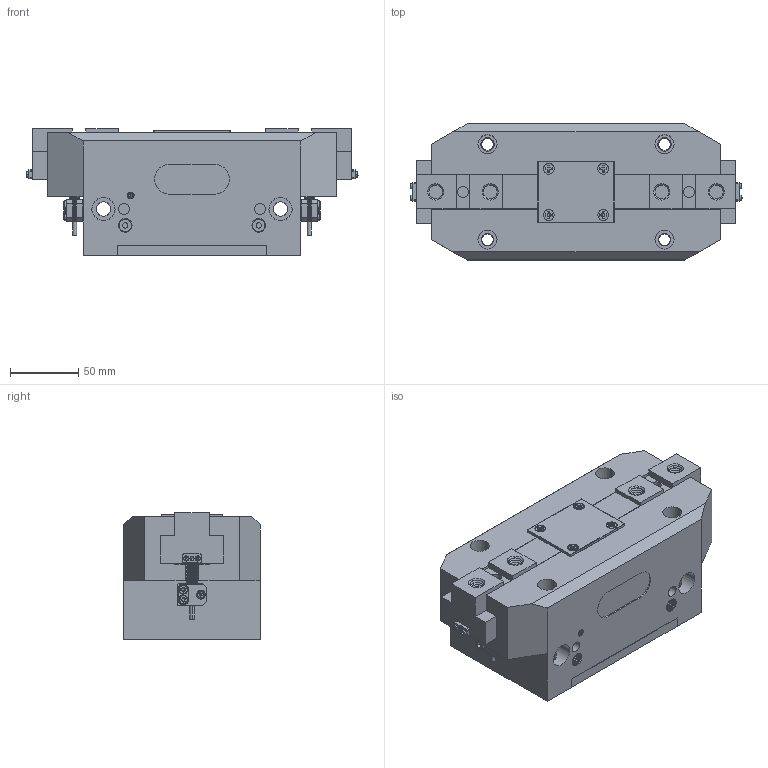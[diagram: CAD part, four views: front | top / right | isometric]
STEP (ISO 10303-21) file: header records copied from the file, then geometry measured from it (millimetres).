
FILE_DESCRIPTION (( 'STEP AP214' ), '1' );
FILE_NAME ('ST90.STEP', '2025-10-23T10:28:13', ( '' ), ( '' ), 'SwSTEP 2.0', 'SolidWorks 2024', '' );
FILE_SCHEMA (( 'AUTOMOTIVE_DESIGN' ));
Length unit declared in the file: millimetre
Products named in the file (1): ST90
Bounding box: 243.8 x 100 x 93 mm (x, y, z)
Volume: 1261929.2 mm3; surface area: 230437.7 mm2
Topology: 37 solids, 37 shells, 2398 faces, 5453 edges, 3212 vertices
Faces by surface type: cone 1396, plane 609, cylinder 357, torus 36
Entity records: 68104 total; most frequent: CARTESIAN_POINT 12566, DIRECTION 12525, ORIENTED_EDGE 10842, EDGE_CURVE 5421, AXIS2_PLACEMENT_3D 4827, VERTEX_POINT 3212, LINE 2871, VECTOR 2871
